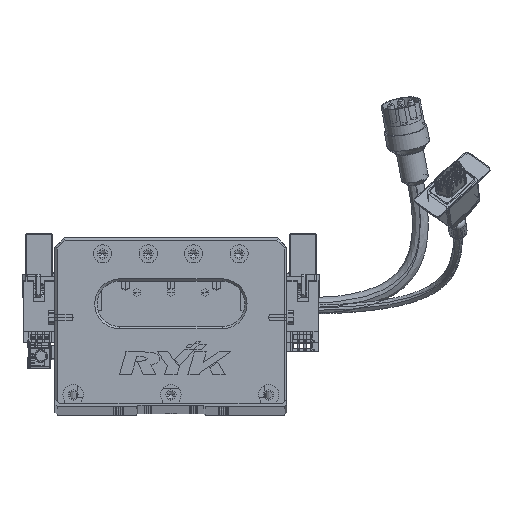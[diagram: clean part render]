
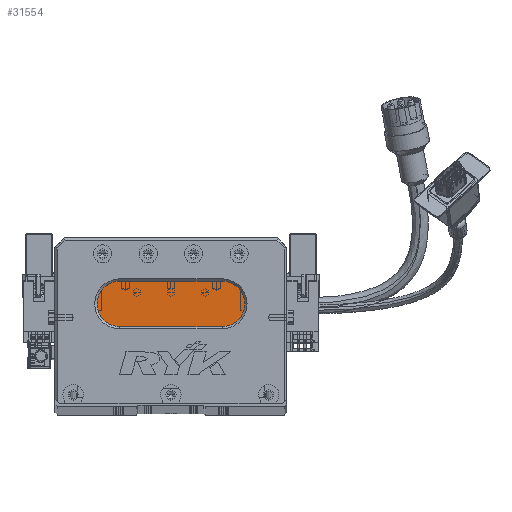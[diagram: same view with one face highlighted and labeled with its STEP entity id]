
A CAD part, top view. The second image highlights one B-rep face of the part: STEP entity #31554.
In plain terms, the highlighted planar face has unit normal (0, 0, 1) as drawn and (0, 0, -1) by its records, which use the part's own axes.
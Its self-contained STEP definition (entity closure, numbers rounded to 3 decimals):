
#795 = LINE ( 'NONE', #80509, #44384 ) ;
#1018 = CIRCLE ( 'NONE', #76413, 10. ) ;
#4184 = DIRECTION ( 'NONE',  ( 1., 0., 0. ) ) ;
#4511 = AXIS2_PLACEMENT_3D ( 'NONE', #26135, #83773, #45129 ) ;
#8570 = CARTESIAN_POINT ( 'NONE',  ( 73.5, 34., 13. ) ) ;
#9435 = ORIENTED_EDGE ( 'NONE', *, *, #12636, .T. ) ;
#10144 = VECTOR ( 'NONE', #27550, 1000. ) ;
#12636 = EDGE_CURVE ( 'NONE', #55613, #43634, #795, .T. ) ;
#14302 = CARTESIAN_POINT ( 'NONE',  ( 73.5, 54., 13. ) ) ;
#15995 = DIRECTION ( 'NONE',  ( 0., 0., -1. ) ) ;
#19377 = CIRCLE ( 'NONE', #4511, 10. ) ;
#20016 = ORIENTED_EDGE ( 'NONE', *, *, #77155, .T. ) ;
#20114 = ORIENTED_EDGE ( 'NONE', *, *, #41437, .T. ) ;
#20492 = DIRECTION ( 'NONE',  ( -1., 0., 0. ) ) ;
#26027 = CARTESIAN_POINT ( 'NONE',  ( 28.5, 34., 13. ) ) ;
#26135 = CARTESIAN_POINT ( 'NONE',  ( 73.5, 44., 13. ) ) ;
#26715 = DIRECTION ( 'NONE',  ( 0., 0., -1. ) ) ;
#27550 = DIRECTION ( 'NONE',  ( -1., 0., 0. ) ) ;
#28732 = CARTESIAN_POINT ( 'NONE',  ( 28.5, 44., 13. ) ) ;
#29057 = CARTESIAN_POINT ( 'NONE',  ( 28.5, 44., 13. ) ) ;
#31554 = ADVANCED_FACE ( 'NONE', ( #39316 ), #39496, .T. ) ;
#35579 = DIRECTION ( 'NONE',  ( 0., 0., -1. ) ) ;
#39316 = FACE_OUTER_BOUND ( 'NONE', #79964, .T. ) ;
#39496 = PLANE ( 'NONE',  #73853 ) ;
#41437 = EDGE_CURVE ( 'NONE', #58157, #72164, #62725, .T. ) ;
#43634 = VERTEX_POINT ( 'NONE', #14302 ) ;
#44384 = VECTOR ( 'NONE', #4184, 1000. ) ;
#44433 = ORIENTED_EDGE ( 'NONE', *, *, #54785, .T. ) ;
#45129 = DIRECTION ( 'NONE',  ( -1., 0., 0. ) ) ;
#54785 = EDGE_CURVE ( 'NONE', #43634, #58157, #19377, .T. ) ;
#55613 = VERTEX_POINT ( 'NONE', #73398 ) ;
#58157 = VERTEX_POINT ( 'NONE', #63864 ) ;
#58593 = AXIS2_PLACEMENT_3D ( 'NONE', #28732, #15995, #61226 ) ;
#59218 = CARTESIAN_POINT ( 'NONE',  ( 73.5, 44., 13. ) ) ;
#59454 = CARTESIAN_POINT ( 'NONE',  ( 18.5, 44., 13. ) ) ;
#61226 = DIRECTION ( 'NONE',  ( -1., 0., 0. ) ) ;
#62725 = LINE ( 'NONE', #8570, #10144 ) ;
#63864 = CARTESIAN_POINT ( 'NONE',  ( 73.5, 34., 13. ) ) ;
#67743 = CIRCLE ( 'NONE', #58593, 10. ) ;
#72164 = VERTEX_POINT ( 'NONE', #26027 ) ;
#73398 = CARTESIAN_POINT ( 'NONE',  ( 28.5, 54., 13. ) ) ;
#73853 = AXIS2_PLACEMENT_3D ( 'NONE', #59218, #26715, #20492 ) ;
#74295 = DIRECTION ( 'NONE',  ( -1., 0., 0. ) ) ;
#76355 = VERTEX_POINT ( 'NONE', #59454 ) ;
#76413 = AXIS2_PLACEMENT_3D ( 'NONE', #29057, #35579, #74295 ) ;
#77155 = EDGE_CURVE ( 'NONE', #76355, #55613, #1018, .T. ) ;
#77391 = ORIENTED_EDGE ( 'NONE', *, *, #77574, .T. ) ;
#77574 = EDGE_CURVE ( 'NONE', #72164, #76355, #67743, .T. ) ;
#79964 = EDGE_LOOP ( 'NONE', ( #44433, #20114, #77391, #20016, #9435 ) ) ;
#80509 = CARTESIAN_POINT ( 'NONE',  ( 73.5, 54., 13. ) ) ;
#83773 = DIRECTION ( 'NONE',  ( 0., 0., -1. ) ) ;
